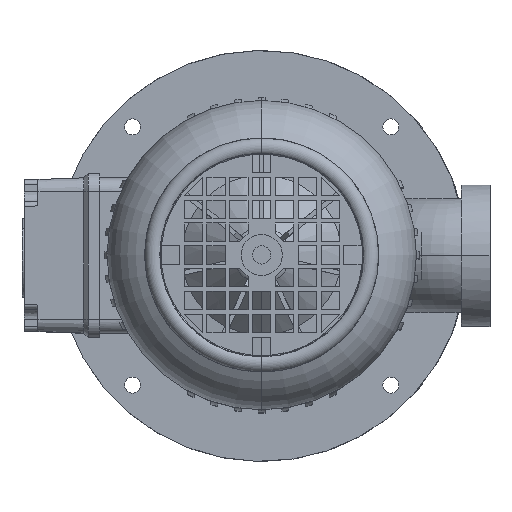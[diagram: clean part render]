
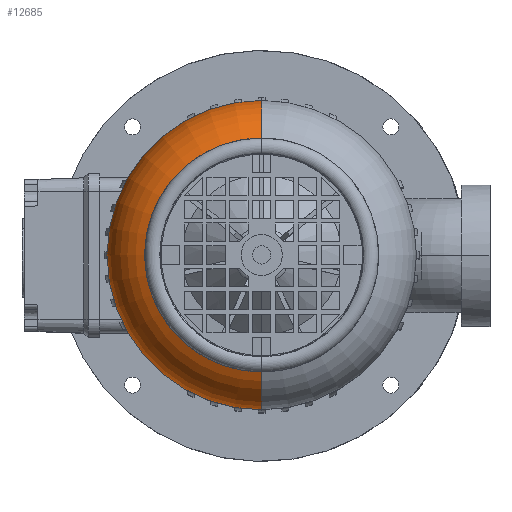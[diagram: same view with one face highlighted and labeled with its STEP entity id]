
A CAD part, top view. The second image highlights one B-rep face of the part: STEP entity #12685.
In plain terms, the highlighted toroidal (fillet/blend) face has major radius 39.75 mm and minor radius 28 mm.
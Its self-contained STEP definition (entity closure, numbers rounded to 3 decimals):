
#5795=VERTEX_POINT('',#15028);
#8921=EDGE_CURVE('',#11843,#5795,#18506,.T.);
#9917=EDGE_CURVE('',#13081,#10971,#19619,.T.);
#10971=VERTEX_POINT('',#20777);
#11261=EDGE_CURVE('',#13081,#11843,#21087,.T.);
#11279=EDGE_CURVE('',#5795,#10971,#21106,.T.);
#11843=VERTEX_POINT('',#21723);
#12685=ADVANCED_FACE('',(#22661),#22662,.T.);
#13081=VERTEX_POINT('',#23097);
#15028=CARTESIAN_POINT('',(0.0,67.75,169.));
#18506=CIRCLE('',#33265,67.75);
#19619=CIRCLE('',#35423,51.25);
#20777=CARTESIAN_POINT('',(0.0,51.25,194.529));
#21087=CIRCLE('',#38271,28.);
#21106=CIRCLE('',#38299,28.);
#21723=CARTESIAN_POINT('',(0.,-67.75,169.));
#22661=FACE_OUTER_BOUND('',#41070,.T.);
#22662=TOROIDAL_SURFACE('',#41071,39.75,28.);
#23097=CARTESIAN_POINT('',(0.,-51.25,194.529));
#33265=AXIS2_PLACEMENT_3D('',#48538,#48539,#48540);
#35423=AXIS2_PLACEMENT_3D('',#49815,#49816,#49817);
#38271=AXIS2_PLACEMENT_3D('',#51412,#51413,#51414);
#38299=AXIS2_PLACEMENT_3D('',#51427,#51428,#51429);
#41070=EDGE_LOOP('',(#53260,#53261,#53262,#53263));
#41071=AXIS2_PLACEMENT_3D('',#53264,#53265,#53266);
#48538=CARTESIAN_POINT('',(0.0,0.0,169.));
#48539=DIRECTION('',(0.0,0.0,-1.0));
#48540=DIRECTION('',(0.0,1.0,0.0));
#49815=CARTESIAN_POINT('',(0.0,0.0,194.529));
#49816=DIRECTION('',(0.0,0.0,-1.0));
#49817=DIRECTION('',(0.0,1.0,0.0));
#51412=CARTESIAN_POINT('',(0.,-39.75,169.));
#51413=DIRECTION('',(1.0,0.,0.0));
#51414=DIRECTION('',(0.,-1.0,-0.0));
#51427=CARTESIAN_POINT('',(0.,39.75,169.));
#51428=DIRECTION('',(1.0,0.,0.0));
#51429=DIRECTION('',(0.,1.0,0.0));
#53260=ORIENTED_EDGE('',*,*,#11261,.F.);
#53261=ORIENTED_EDGE('',*,*,#9917,.T.);
#53262=ORIENTED_EDGE('',*,*,#11279,.F.);
#53263=ORIENTED_EDGE('',*,*,#8921,.F.);
#53264=CARTESIAN_POINT('',(0.0,0.0,169.));
#53265=DIRECTION('',(0.0,0.0,-1.0));
#53266=DIRECTION('',(0.0,-1.0,0.0));
